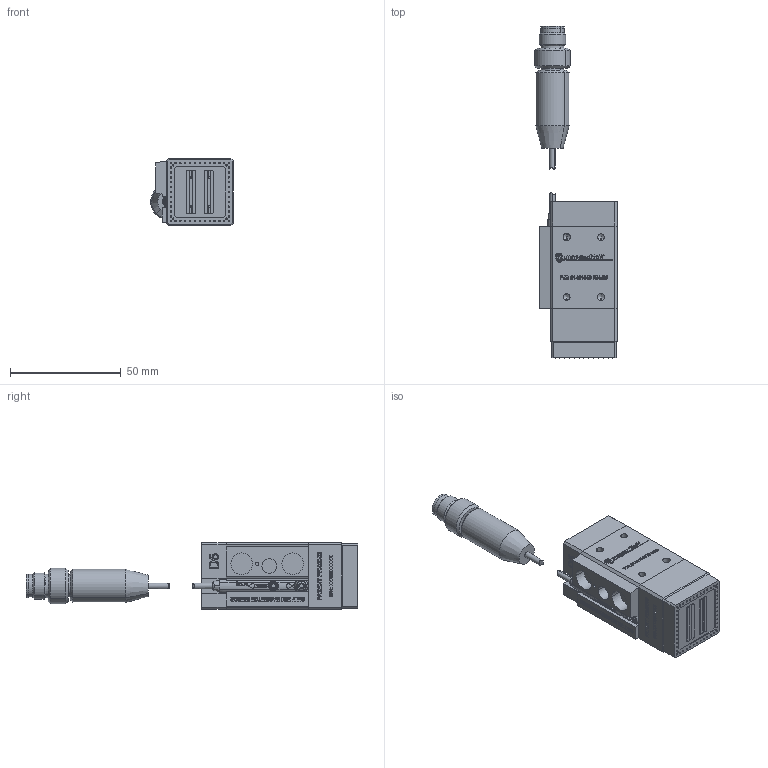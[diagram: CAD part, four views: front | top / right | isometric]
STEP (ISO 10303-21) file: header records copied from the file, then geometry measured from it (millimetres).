
FILE_DESCRIPTION (( 'STEP AP203' ), '1' );
FILE_NAME ('D5 with friction pad and sensor_s.STEP', '2023-11-07T22:03:20', ( '' ), ( '' ), 'SwSTEP 2.0', 'SolidWorks 2022', '' );
FILE_SCHEMA (( 'CONFIG_CONTROL_DESIGN' ));
Products named in the file (1): D5 with friction pad and sensor_s
Bounding box: 37.13 x 149.57 x 30 mm (x, y, z)
Volume: 70686 mm3; surface area: 27103.2 mm2
Topology: 17 solids, 25 shells, 2302 faces, 6016 edges, 3928 vertices
Faces by surface type: plane 1274, bspline 411, cylinder 347, cone 148, torus 106, sphere 16
Entity records: 107377 total; most frequent: CARTESIAN_POINT 54364, ORIENTED_EDGE 11900, DIRECTION 9209, EDGE_CURVE 5950, VERTEX_POINT 3928, LINE 3757, VECTOR 3757, AXIS2_PLACEMENT_3D 2726
